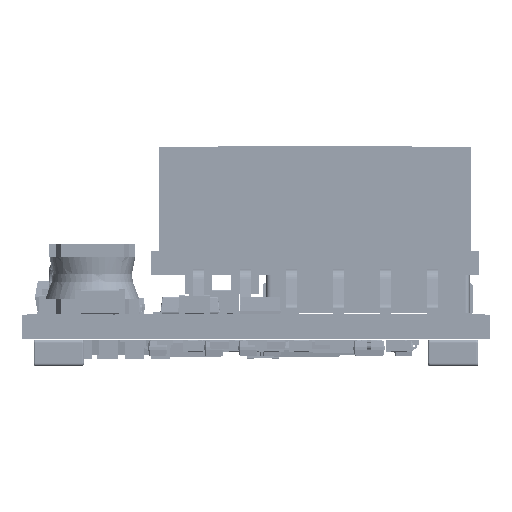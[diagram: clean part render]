
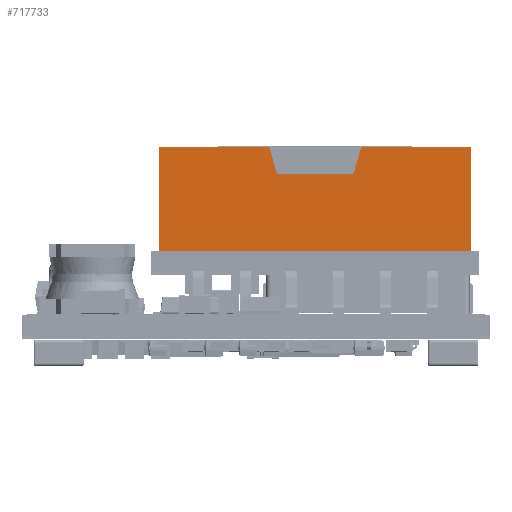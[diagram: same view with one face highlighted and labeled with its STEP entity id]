
A CAD part, left-side view. The second image highlights one B-rep face of the part: STEP entity #717733.
In plain terms, the highlighted face is a extrusion surface.
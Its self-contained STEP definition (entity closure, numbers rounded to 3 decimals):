
#717733 = ADVANCED_FACE('',(#717734),#717836,.T.);
#717734 = FACE_BOUND('',#717735,.T.);
#717735 = EDGE_LOOP('',(#717736,#717746,#717755,#717763,#717772,#717780,
    #717789,#717797,#717806,#717814,#717822,#717830));
#717736 = ORIENTED_EDGE('',*,*,#717737,.T.);
#717737 = EDGE_CURVE('',#717738,#717740,#717742,.T.);
#717738 = VERTEX_POINT('',#717739);
#717739 = CARTESIAN_POINT('',(8.217,-1.165,
    10.73));
#717740 = VERTEX_POINT('',#717741);
#717741 = CARTESIAN_POINT('',(8.217,5.772,
    10.73));
#717742 = LINE('',#717743,#717744);
#717743 = CARTESIAN_POINT('',(8.217,-1.165,
    10.73));
#717744 = VECTOR('',#717745,1.);
#717745 = DIRECTION('',(0.,1.,0.));
#717746 = ORIENTED_EDGE('',*,*,#717747,.T.);
#717747 = EDGE_CURVE('',#717740,#717748,#717750,.T.);
#717748 = VERTEX_POINT('',#717749);
#717749 = CARTESIAN_POINT('',(8.217,5.917,
    10.621));
#717750 = CIRCLE('',#717751,0.15);
#717751 = AXIS2_PLACEMENT_3D('',#717752,#717753,#717754);
#717752 = CARTESIAN_POINT('',(8.217,5.772,
    10.58));
#717753 = DIRECTION('',(-1.,0.,0.));
#717754 = DIRECTION('',(0.,-1.,0.));
#717755 = ORIENTED_EDGE('',*,*,#717756,.T.);
#717756 = EDGE_CURVE('',#717748,#717757,#717759,.T.);
#717757 = VERTEX_POINT('',#717758);
#717758 = CARTESIAN_POINT('',(8.217,6.354,
    9.095));
#717759 = LINE('',#717760,#717761);
#717760 = CARTESIAN_POINT('',(8.217,5.917,
    10.621));
#717761 = VECTOR('',#717762,1.);
#717762 = DIRECTION('',(0.,0.276,-0.961));
#717763 = ORIENTED_EDGE('',*,*,#717764,.T.);
#717764 = EDGE_CURVE('',#717757,#717765,#717767,.T.);
#717765 = VERTEX_POINT('',#717766);
#717766 = CARTESIAN_POINT('',(8.217,6.498,
    8.986));
#717767 = CIRCLE('',#717768,0.15);
#717768 = AXIS2_PLACEMENT_3D('',#717769,#717770,#717771);
#717769 = CARTESIAN_POINT('',(8.217,6.498,
    9.136));
#717770 = DIRECTION('',(1.,0.,0.));
#717771 = DIRECTION('',(0.,-1.,0.));
#717772 = ORIENTED_EDGE('',*,*,#717773,.T.);
#717773 = EDGE_CURVE('',#717765,#717774,#717776,.T.);
#717774 = VERTEX_POINT('',#717775);
#717775 = CARTESIAN_POINT('',(8.217,11.172,
    8.986));
#717776 = LINE('',#717777,#717778);
#717777 = CARTESIAN_POINT('',(8.217,6.498,
    8.986));
#717778 = VECTOR('',#717779,1.);
#717779 = DIRECTION('',(0.,1.,0.));
#717780 = ORIENTED_EDGE('',*,*,#717781,.T.);
#717781 = EDGE_CURVE('',#717774,#717782,#717784,.T.);
#717782 = VERTEX_POINT('',#717783);
#717783 = CARTESIAN_POINT('',(8.217,11.317,
    9.095));
#717784 = CIRCLE('',#717785,0.15);
#717785 = AXIS2_PLACEMENT_3D('',#717786,#717787,#717788);
#717786 = CARTESIAN_POINT('',(8.217,11.172,
    9.136));
#717787 = DIRECTION('',(1.,0.,0.));
#717788 = DIRECTION('',(0.,-1.,0.));
#717789 = ORIENTED_EDGE('',*,*,#717790,.T.);
#717790 = EDGE_CURVE('',#717782,#717791,#717793,.T.);
#717791 = VERTEX_POINT('',#717792);
#717792 = CARTESIAN_POINT('',(8.217,11.754,
    10.621));
#717793 = LINE('',#717794,#717795);
#717794 = CARTESIAN_POINT('',(8.217,11.317,
    9.095));
#717795 = VECTOR('',#717796,1.);
#717796 = DIRECTION('',(0.,0.276,0.961));
#717797 = ORIENTED_EDGE('',*,*,#717798,.T.);
#717798 = EDGE_CURVE('',#717791,#717799,#717801,.T.);
#717799 = VERTEX_POINT('',#717800);
#717800 = CARTESIAN_POINT('',(8.217,11.898,
    10.73));
#717801 = CIRCLE('',#717802,0.15);
#717802 = AXIS2_PLACEMENT_3D('',#717803,#717804,#717805);
#717803 = CARTESIAN_POINT('',(8.217,11.898,
    10.58));
#717804 = DIRECTION('',(-1.,0.,0.));
#717805 = DIRECTION('',(0.,-1.,0.));
#717806 = ORIENTED_EDGE('',*,*,#717807,.T.);
#717807 = EDGE_CURVE('',#717799,#717808,#717810,.T.);
#717808 = VERTEX_POINT('',#717809);
#717809 = CARTESIAN_POINT('',(8.217,18.835,
    10.73));
#717810 = LINE('',#717811,#717812);
#717811 = CARTESIAN_POINT('',(8.217,11.898,
    10.73));
#717812 = VECTOR('',#717813,1.);
#717813 = DIRECTION('',(0.,1.,0.));
#717814 = ORIENTED_EDGE('',*,*,#717815,.T.);
#717815 = EDGE_CURVE('',#717808,#717816,#717818,.T.);
#717816 = VERTEX_POINT('',#717817);
#717817 = CARTESIAN_POINT('',(8.217,18.835,
    4.08));
#717818 = LINE('',#717819,#717820);
#717819 = CARTESIAN_POINT('',(8.217,18.835,
    10.73));
#717820 = VECTOR('',#717821,1.);
#717821 = DIRECTION('',(0.,0.,-1.));
#717822 = ORIENTED_EDGE('',*,*,#717823,.T.);
#717823 = EDGE_CURVE('',#717816,#717824,#717826,.T.);
#717824 = VERTEX_POINT('',#717825);
#717825 = CARTESIAN_POINT('',(8.217,-1.165,
    4.08));
#717826 = LINE('',#717827,#717828);
#717827 = CARTESIAN_POINT('',(8.217,18.835,
    4.08));
#717828 = VECTOR('',#717829,1.);
#717829 = DIRECTION('',(0.,-1.,0.));
#717830 = ORIENTED_EDGE('',*,*,#717831,.T.);
#717831 = EDGE_CURVE('',#717824,#717738,#717832,.T.);
#717832 = LINE('',#717833,#717834);
#717833 = CARTESIAN_POINT('',(8.217,-1.165,
    4.08));
#717834 = VECTOR('',#717835,1.);
#717835 = DIRECTION('',(0.,0.,1.));
#717836 = SURFACE_OF_LINEAR_EXTRUSION('',#717837,#717841);
#717837 = LINE('',#717838,#717839);
#717838 = CARTESIAN_POINT('',(8.217,-1.165,
    10.73));
#717839 = VECTOR('',#717840,1.);
#717840 = DIRECTION('',(0.,1.,0.));
#717841 = VECTOR('',#717842,1.);
#717842 = DIRECTION('',(0.,0.,-1.));
